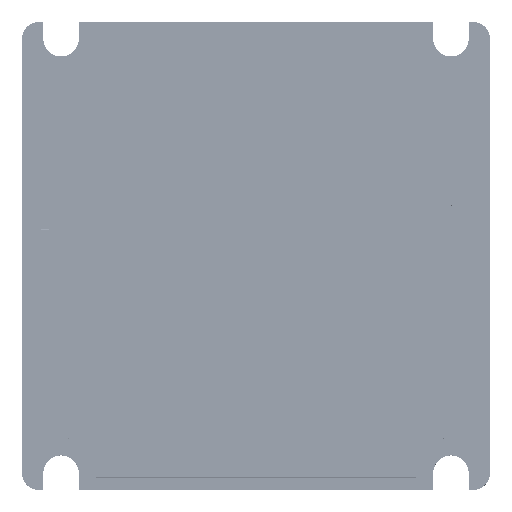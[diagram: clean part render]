
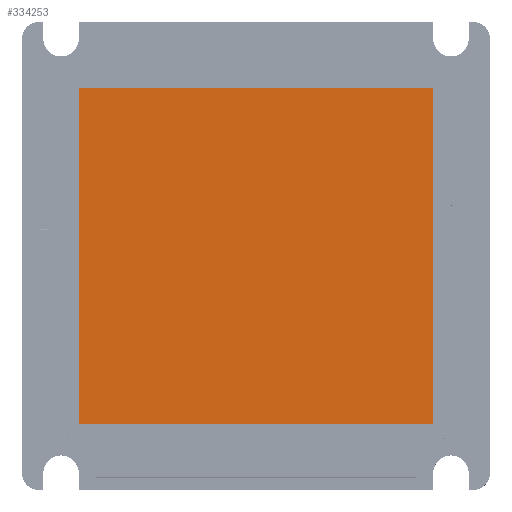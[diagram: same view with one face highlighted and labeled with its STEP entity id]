
A CAD part, top view. The second image highlights one B-rep face of the part: STEP entity #334253.
In plain terms, the highlighted planar face has unit normal (0, 0, 1).
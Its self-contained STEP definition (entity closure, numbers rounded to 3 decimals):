
#4112 = ORIENTED_EDGE ( 'NONE', *, *, #227529, .T. ) ;
#10409 = EDGE_CURVE ( 'NONE', #135216, #133633, #232968, .T. ) ;
#49881 = DIRECTION ( 'NONE',  ( 0., 0., 1. ) ) ;
#69294 = LINE ( 'NONE', #144788, #363590 ) ;
#71178 = CARTESIAN_POINT ( 'NONE',  ( -9.965, 9.465, 1.71 ) ) ;
#79707 = PLANE ( 'NONE',  #145458 ) ;
#115894 = VECTOR ( 'NONE', #388079, 1000. ) ;
#124448 = LINE ( 'NONE', #156564, #133091 ) ;
#133091 = VECTOR ( 'NONE', #332191, 1000. ) ;
#133633 = VERTEX_POINT ( 'NONE', #306860 ) ;
#135216 = VERTEX_POINT ( 'NONE', #173212 ) ;
#144788 = CARTESIAN_POINT ( 'NONE',  ( 9.965, 9.465, 1.71 ) ) ;
#145458 = AXIS2_PLACEMENT_3D ( 'NONE', #294259, #49881, #253380 ) ;
#156564 = CARTESIAN_POINT ( 'NONE',  ( -9.965, -9.465, 1.71 ) ) ;
#173212 = CARTESIAN_POINT ( 'NONE',  ( 9.965, 9.465, 1.71 ) ) ;
#176345 = DIRECTION ( 'NONE',  ( 0., -1., 0. ) ) ;
#211014 = VERTEX_POINT ( 'NONE', #345418 ) ;
#227529 = EDGE_CURVE ( 'NONE', #211014, #135216, #69294, .T. ) ;
#232968 = LINE ( 'NONE', #372220, #115894 ) ;
#234692 = VERTEX_POINT ( 'NONE', #420661 ) ;
#236544 = VECTOR ( 'NONE', #176345, 1000. ) ;
#253380 = DIRECTION ( 'NONE',  ( 1., 0., 0. ) ) ;
#278840 = EDGE_LOOP ( 'NONE', ( #331293, #444856, #4112, #402657 ) ) ;
#294259 = CARTESIAN_POINT ( 'NONE',  ( 0., 0., 1.71 ) ) ;
#306860 = CARTESIAN_POINT ( 'NONE',  ( -9.965, 9.465, 1.71 ) ) ;
#331293 = ORIENTED_EDGE ( 'NONE', *, *, #368180, .T. ) ;
#332191 = DIRECTION ( 'NONE',  ( 1., 0., 0. ) ) ;
#334253 = ADVANCED_FACE ( 'NONE', ( #358331 ), #79707, .T. ) ;
#337078 = EDGE_CURVE ( 'NONE', #234692, #211014, #124448, .T. ) ;
#345418 = CARTESIAN_POINT ( 'NONE',  ( 9.965, -9.465, 1.71 ) ) ;
#358331 = FACE_OUTER_BOUND ( 'NONE', #278840, .T. ) ;
#363590 = VECTOR ( 'NONE', #414350, 1000. ) ;
#368180 = EDGE_CURVE ( 'NONE', #133633, #234692, #418437, .T. ) ;
#372220 = CARTESIAN_POINT ( 'NONE',  ( -9.965, 9.465, 1.71 ) ) ;
#388079 = DIRECTION ( 'NONE',  ( -1., 0., 0. ) ) ;
#402657 = ORIENTED_EDGE ( 'NONE', *, *, #10409, .T. ) ;
#414350 = DIRECTION ( 'NONE',  ( 0., 1., 0. ) ) ;
#418437 = LINE ( 'NONE', #71178, #236544 ) ;
#420661 = CARTESIAN_POINT ( 'NONE',  ( -9.965, -9.465, 1.71 ) ) ;
#444856 = ORIENTED_EDGE ( 'NONE', *, *, #337078, .T. ) ;
